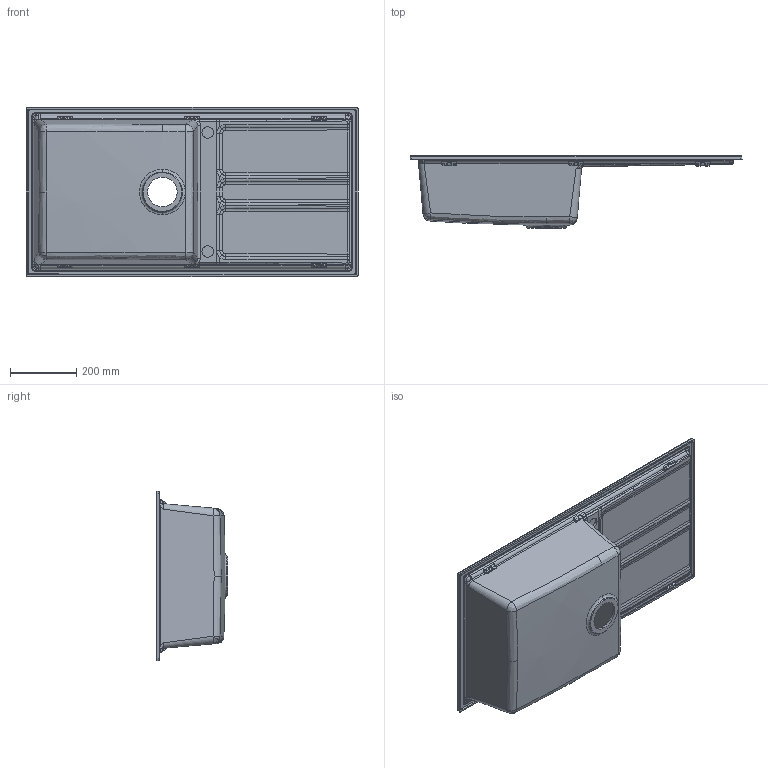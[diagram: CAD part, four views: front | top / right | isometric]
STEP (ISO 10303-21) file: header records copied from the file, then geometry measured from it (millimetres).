
FILE_DESCRIPTION (( 'STEP AP203' ), '1' );
FILE_NAME ('Best480.STEP', '2018-10-10T09:21:13', ( '' ), ( '' ), 'SwSTEP 2.0', 'SolidWorks 2013', '' );
FILE_SCHEMA (( 'CONFIG_CONTROL_DESIGN' ));
Products named in the file (1): Best480
Bounding box: 1000 x 216.53 x 510 mm (x, y, z)
Volume: 6758455.1 mm3; surface area: 1638426.7 mm2
Topology: 1 solids, 1 shells, 765 faces, 1794 edges, 1013 vertices
Faces by surface type: bspline 390, cylinder 262, plane 109, cone 4
Entity records: 39662 total; most frequent: CARTESIAN_POINT 24916, ORIENTED_EDGE 3512, DIRECTION 2458, EDGE_CURVE 1756, VERTEX_POINT 1013, AXIS2_PLACEMENT_3D 988, EDGE_LOOP 789, ADVANCED_FACE 765
